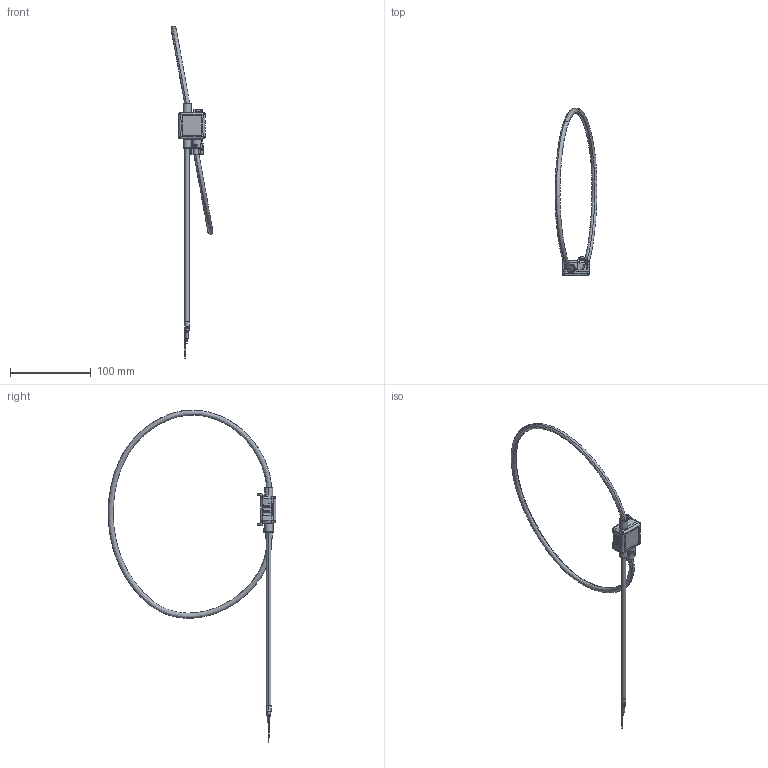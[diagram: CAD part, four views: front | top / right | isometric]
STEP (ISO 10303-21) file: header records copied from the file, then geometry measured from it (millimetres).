
FILE_DESCRIPTION(('Creo Elements/Direct Modeling STEP Export'),'2;1');
FILE_NAME('ART_B22_D175.stp','2016-05-20T19:33:57',(''),(''),'PTC Creo Elements/Direct Modeling STEP processor for AP214 (Solid Model)','PTC Creo Elements/Direct Modeling 19.0B 21-Mar-2015 (C) Parametric Technology GmbH','');
FILE_SCHEMA(('AUTOMOTIVE_DESIGN { 1 0 10303 214 1 1 1 1 }'));
Products named in the file (2): blackbox_dia175
Assembly tree (1 placements, depth 2):
  blackbox_dia175
    blackbox_dia175
Bounding box: 52.09 x 208.28 x 412.3 mm (x, y, z)
Volume: 49410.3 mm3; surface area: 26382.4 mm2
Topology: 1 solids, 19 shells, 1566 faces, 4135 edges, 2599 vertices
Faces by surface type: plane 739, bspline 378, cylinder 273, torus 110, cone 41, extrusion 20, sphere 5
Entity records: 104975 total; most frequent: CARTESIAN_POINT 70586, ORIENTED_EDGE 8254, DIRECTION 5500, EDGE_CURVE 4124, VERTEX_POINT 2599, VECTOR 2194, LINE 2174, AXIS2_PLACEMENT_3D 1653
